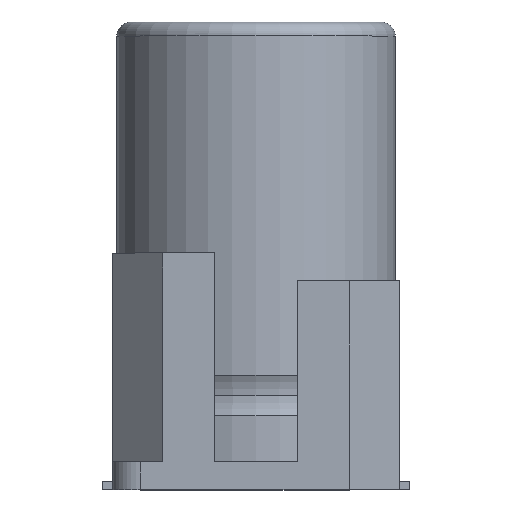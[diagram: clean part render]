
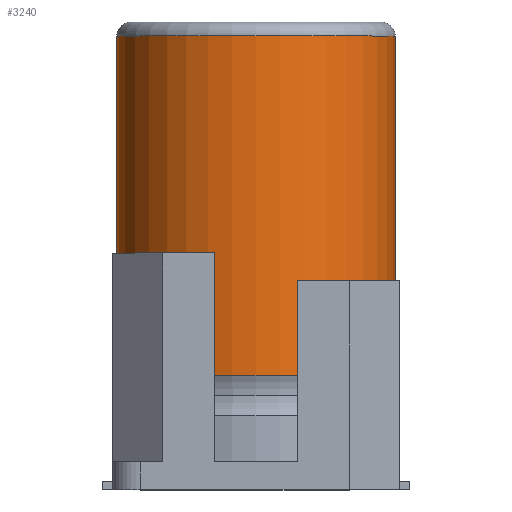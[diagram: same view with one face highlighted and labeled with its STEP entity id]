
A CAD part, top view. The second image highlights one B-rep face of the part: STEP entity #3240.
In plain terms, the highlighted cylindrical face has radius 5 mm (diameter 10 mm), a partial arc.
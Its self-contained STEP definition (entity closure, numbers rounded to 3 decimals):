
#91 = ORIENTED_EDGE ( 'NONE', *, *, #2433, .T. ) ;
#179 = LINE ( 'NONE', #1325, #2187 ) ;
#239 = CARTESIAN_POINT ( 'NONE',  ( 5., 3.1, 0. ) ) ;
#505 = CYLINDRICAL_SURFACE ( 'NONE', #2102, 5. ) ;
#680 = DIRECTION ( 'NONE',  ( 1., 0., 0. ) ) ;
#915 = DIRECTION ( 'NONE',  ( 0., -1., 0. ) ) ;
#946 = AXIS2_PLACEMENT_3D ( 'NONE', #3441, #915, #2123 ) ;
#1072 = CARTESIAN_POINT ( 'NONE',  ( 0., 3.1, 0. ) ) ;
#1177 = VECTOR ( 'NONE', #1298, 1000. ) ;
#1281 = DIRECTION ( 'NONE',  ( 0., -1., 0. ) ) ;
#1298 = DIRECTION ( 'NONE',  ( 0., -1., 0. ) ) ;
#1306 = EDGE_CURVE ( 'NONE', #1570, #2828, #179, .T. ) ;
#1325 = CARTESIAN_POINT ( 'NONE',  ( 5., 15.8, 0. ) ) ;
#1396 = ORIENTED_EDGE ( 'NONE', *, *, #1306, .F. ) ;
#1524 = EDGE_CURVE ( 'NONE', #2828, #2887, #2292, .T. ) ;
#1570 = VERTEX_POINT ( 'NONE', #1741 ) ;
#1741 = CARTESIAN_POINT ( 'NONE',  ( 5., 15.3, 0. ) ) ;
#1759 = EDGE_CURVE ( 'NONE', #3813, #2887, #3482, .T. ) ;
#1887 = CARTESIAN_POINT ( 'NONE',  ( 0., 15.8, 0. ) ) ;
#1949 = DIRECTION ( 'NONE',  ( 1., 0., 0. ) ) ;
#2102 = AXIS2_PLACEMENT_3D ( 'NONE', #1887, #2524, #680 ) ;
#2120 = FACE_OUTER_BOUND ( 'NONE', #2599, .T. ) ;
#2123 = DIRECTION ( 'NONE',  ( -1., 0., 0. ) ) ;
#2145 = AXIS2_PLACEMENT_3D ( 'NONE', #1072, #3530, #1949 ) ;
#2187 = VECTOR ( 'NONE', #1281, 1000. ) ;
#2292 = CIRCLE ( 'NONE', #2145, 5. ) ;
#2344 = CARTESIAN_POINT ( 'NONE',  ( -5., 15.3, 0. ) ) ;
#2433 = EDGE_CURVE ( 'NONE', #1570, #3813, #3420, .T. ) ;
#2524 = DIRECTION ( 'NONE',  ( 0., -1., 0. ) ) ;
#2599 = EDGE_LOOP ( 'NONE', ( #91, #3783, #3865, #1396 ) ) ;
#2828 = VERTEX_POINT ( 'NONE', #239 ) ;
#2887 = VERTEX_POINT ( 'NONE', #2991 ) ;
#2991 = CARTESIAN_POINT ( 'NONE',  ( -5., 3.1, 0. ) ) ;
#3240 = ADVANCED_FACE ( 'NONE', ( #2120 ), #505, .T. ) ;
#3420 = CIRCLE ( 'NONE', #946, 5. ) ;
#3441 = CARTESIAN_POINT ( 'NONE',  ( 0., 15.3, 0. ) ) ;
#3482 = LINE ( 'NONE', #3778, #1177 ) ;
#3530 = DIRECTION ( 'NONE',  ( 0., -1., 0. ) ) ;
#3778 = CARTESIAN_POINT ( 'NONE',  ( -5., 15.8, 0. ) ) ;
#3783 = ORIENTED_EDGE ( 'NONE', *, *, #1759, .T. ) ;
#3813 = VERTEX_POINT ( 'NONE', #2344 ) ;
#3865 = ORIENTED_EDGE ( 'NONE', *, *, #1524, .F. ) ;
